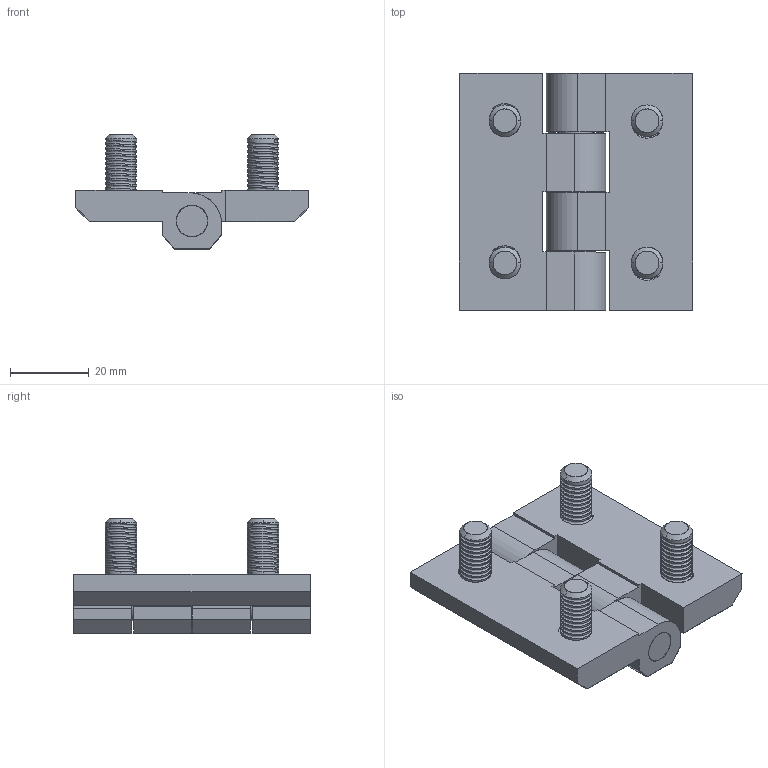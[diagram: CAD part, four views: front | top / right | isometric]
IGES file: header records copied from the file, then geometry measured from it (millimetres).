
Start section: SolidWorks IGES file using analytic representation for surfaces
Global section: file name: C:\Documents and Settings\Deathkiller\桌面\3D IGES\鉸鏈 HINGES\CL-226 series\CL-226-1S.IGS; native system: SolidWorks 2006 by SolidWorks Corporation; preprocessor: SolidWorks 2006 by SolidWorks Corporation; author: Deathkiller; date: 080806.090223; units: millimetre
Bounding box: 59 x 60 x 29 mm (x, y, z)
Surface area: 15626.7 mm2 (no closed solid volume)
Topology: 0 solids, 0 shells, 240 faces, 4068 edges, 4060 vertices
Faces by surface type: revolution 166, bspline 74
